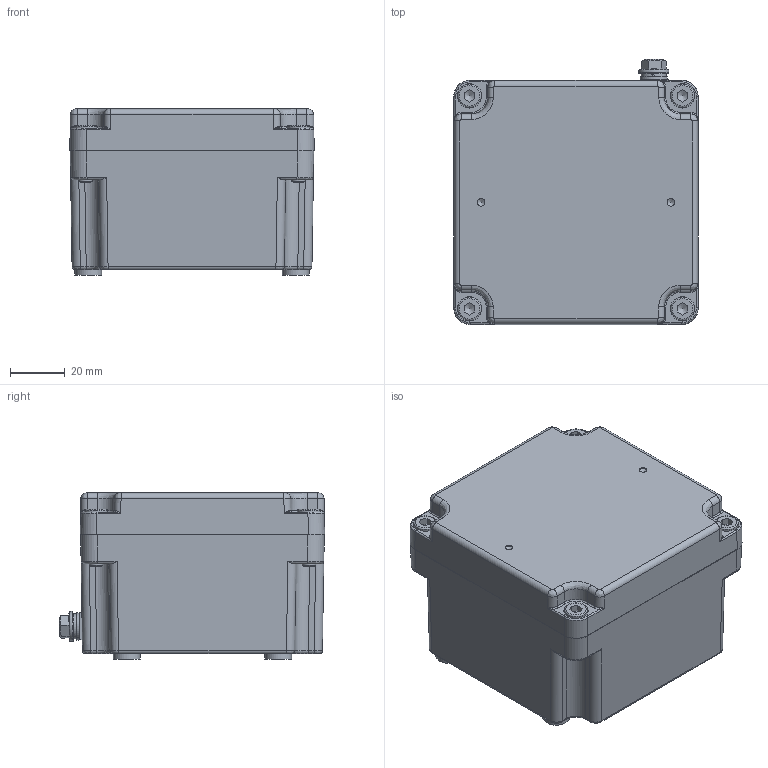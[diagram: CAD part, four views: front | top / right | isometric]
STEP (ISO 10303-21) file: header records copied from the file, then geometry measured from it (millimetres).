
FILE_DESCRIPTION((''),'2;1');
FILE_NAME('C:\Users\A.V.Nesterov\Desktop\111\3D\ТЗ\ТЗ 112181\КСРВ090906_М1_3D.stp','2024-10-01T22:02:45',('A.V.Nesterov'),(''),'Autodesk Inventor 2012','Autodesk Inventor 2012','');
FILE_SCHEMA(('AUTOMOTIVE_DESIGN { 1 0 10303 214 1 1 1 1 }'));
Length unit declared in the file: millimetre
Products named in the file (1): КСРВ090906_М1_3D
Bounding box: 89.5 x 97.17 x 60.8 mm (x, y, z)
Surface area: 79120.9 mm2 (no closed solid volume)
Topology: 0 solids, 10 shells, 751 faces, 1839 edges, 1133 vertices
Faces by surface type: plane 307, cylinder 270, bspline 92, cone 42, torus 31, sphere 9
Full cylindrical faces by diameter (mm): 2.8 x2, 3 x4, 4.1 x10, 4.8 x4, 5 x9, 5.3 x1, 5.5 x1, 6 x10, 8.5 x4, 8.9 x4, 9.8 x4, 10 x1
Entity records: 24565 total; most frequent: CARTESIAN_POINT 6677, DIRECTION 3622, ORIENTED_EDGE 3394, EDGE_CURVE 1697, AXIS2_PLACEMENT_3D 1399, VERTEX_POINT 1103, EDGE_LOOP 916, VECTOR 824
